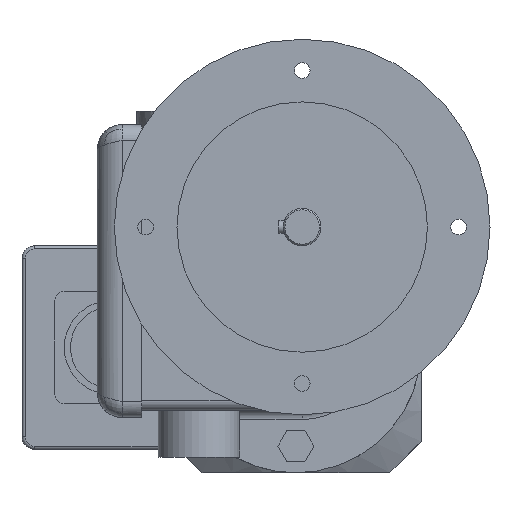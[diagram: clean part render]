
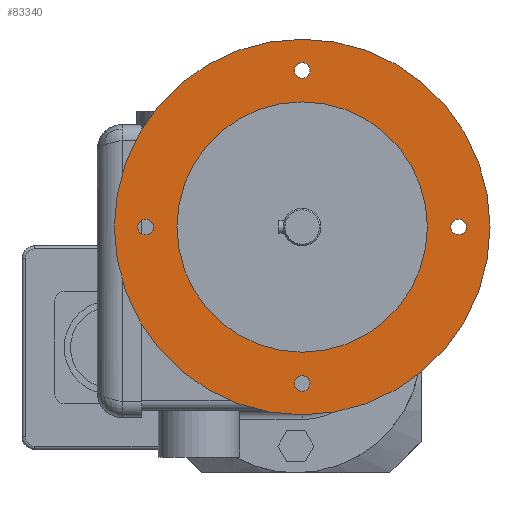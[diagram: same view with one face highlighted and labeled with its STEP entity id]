
A CAD part, left-side view. The second image highlights one B-rep face of the part: STEP entity #83340.
In plain terms, the highlighted planar face has unit normal (-1, 0, 0) as drawn and (0, 0, 1) by its records, which use the part's own axes.
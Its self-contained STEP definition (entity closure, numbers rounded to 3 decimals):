
#82260=CARTESIAN_POINT('',(-34.958,-296.478,185.));
#82270=VERTEX_POINT('',#82260);
#82350=CARTESIAN_POINT('',(-154.958,-296.478,185.));
#82360=VERTEX_POINT('',#82350);
#82390=CARTESIAN_POINT('',(-94.958,-296.478,185.));
#82400=DIRECTION('',(0.,0.,1.));
#82410=DIRECTION('',(1.,0.,0.));
#82420=AXIS2_PLACEMENT_3D('',#82390,#82400,#82410);
#82430=CIRCLE('',#82420,60.);
#82440=EDGE_CURVE('',#82360,#82270,#82430,.T.);
#82490=CARTESIAN_POINT('',(-91.592,-279.62,185.));
#82500=DIRECTION('',(0.,0.,1.));
#82510=DIRECTION('',(1.,0.,0.));
#82520=AXIS2_PLACEMENT_3D('',#82490,#82500,#82510);
#82530=PLANE('',#82520);
#82540=EDGE_CURVE('',#82270,#82360,#82430,.T.);
#82550=ORIENTED_EDGE('',*,*,#82540,.T.);
#82560=ORIENTED_EDGE('',*,*,#82440,.T.);
#82570=EDGE_LOOP('',(#82560,#82550));
#82580=FACE_OUTER_BOUND('',#82570,.T.);
#82590=CARTESIAN_POINT('',(-94.958,-296.478,185.));
#82600=DIRECTION('',(0.,0.,1.));
#82610=DIRECTION('',(1.,0.,0.));
#82620=AXIS2_PLACEMENT_3D('',#82590,#82600,#82610);
#82630=CIRCLE('',#82620,40.);
#82640=CARTESIAN_POINT('',(-54.958,-296.478,185.));
#82650=VERTEX_POINT('',#82640);
#82660=CARTESIAN_POINT('',(-134.958,-296.478,185.));
#82670=VERTEX_POINT('',#82660);
#82680=EDGE_CURVE('',#82650,#82670,#82630,.T.);
#82690=ORIENTED_EDGE('',*,*,#82680,.F.);
#82700=EDGE_CURVE('',#82670,#82650,#82630,.T.);
#82710=ORIENTED_EDGE('',*,*,#82700,.F.);
#82720=EDGE_LOOP('',(#82710,#82690));
#82730=FACE_BOUND('',#82720,.T.);
#82740=CARTESIAN_POINT('',(-44.958,-296.478,185.));
#82750=DIRECTION('',(0.,0.,1.));
#82760=DIRECTION('',(-1.,0.,0.));
#82770=AXIS2_PLACEMENT_3D('',#82740,#82750,#82760);
#82780=CIRCLE('',#82770,2.5);
#82790=CARTESIAN_POINT('',(-47.458,-296.478,185.));
#82800=VERTEX_POINT('',#82790);
#82810=CARTESIAN_POINT('',(-42.458,-296.478,185.));
#82820=VERTEX_POINT('',#82810);
#82830=EDGE_CURVE('',#82800,#82820,#82780,.T.);
#82840=ORIENTED_EDGE('',*,*,#82830,.F.);
#82850=EDGE_CURVE('',#82820,#82800,#82780,.T.);
#82860=ORIENTED_EDGE('',*,*,#82850,.F.);
#82870=EDGE_LOOP('',(#82860,#82840));
#82880=FACE_BOUND('',#82870,.T.);
#82890=CARTESIAN_POINT('',(-94.958,-346.478,185.));
#82900=DIRECTION('',(0.,0.,1.));
#82910=DIRECTION('',(0.,1.,0.));
#82920=AXIS2_PLACEMENT_3D('',#82890,#82900,#82910);
#82930=CIRCLE('',#82920,2.5);
#82940=CARTESIAN_POINT('',(-94.958,-343.978,185.));
#82950=VERTEX_POINT('',#82940);
#82960=CARTESIAN_POINT('',(-94.958,-348.978,185.));
#82970=VERTEX_POINT('',#82960);
#82980=EDGE_CURVE('',#82950,#82970,#82930,.T.);
#82990=ORIENTED_EDGE('',*,*,#82980,.F.);
#83000=EDGE_CURVE('',#82970,#82950,#82930,.T.);
#83010=ORIENTED_EDGE('',*,*,#83000,.F.);
#83020=EDGE_LOOP('',(#83010,#82990));
#83030=FACE_BOUND('',#83020,.T.);
#83040=CARTESIAN_POINT('',(-144.958,-296.478,185.));
#83050=DIRECTION('',(0.,0.,1.));
#83060=DIRECTION('',(1.,0.,0.));
#83070=AXIS2_PLACEMENT_3D('',#83040,#83050,#83060);
#83080=CIRCLE('',#83070,2.5);
#83090=CARTESIAN_POINT('',(-142.458,-296.478,185.));
#83100=VERTEX_POINT('',#83090);
#83110=CARTESIAN_POINT('',(-147.458,-296.478,185.));
#83120=VERTEX_POINT('',#83110);
#83130=EDGE_CURVE('',#83100,#83120,#83080,.T.);
#83140=ORIENTED_EDGE('',*,*,#83130,.F.);
#83150=EDGE_CURVE('',#83120,#83100,#83080,.T.);
#83160=ORIENTED_EDGE('',*,*,#83150,.F.);
#83170=EDGE_LOOP('',(#83160,#83140));
#83180=FACE_BOUND('',#83170,.T.);
#83190=CARTESIAN_POINT('',(-94.958,-246.478,185.));
#83200=DIRECTION('',(0.,0.,1.));
#83210=DIRECTION('',(0.,-1.,0.));
#83220=AXIS2_PLACEMENT_3D('',#83190,#83200,#83210);
#83230=CIRCLE('',#83220,2.5);
#83240=CARTESIAN_POINT('',(-94.958,-248.978,185.));
#83250=VERTEX_POINT('',#83240);
#83260=CARTESIAN_POINT('',(-94.958,-243.978,185.));
#83270=VERTEX_POINT('',#83260);
#83280=EDGE_CURVE('',#83250,#83270,#83230,.T.);
#83290=ORIENTED_EDGE('',*,*,#83280,.F.);
#83300=EDGE_CURVE('',#83270,#83250,#83230,.T.);
#83310=ORIENTED_EDGE('',*,*,#83300,.F.);
#83320=EDGE_LOOP('',(#83310,#83290));
#83330=FACE_BOUND('',#83320,.T.);
#83340=ADVANCED_FACE('',(#82580,#82730,#82880,#83030,#83180,#83330),
#82530,.T.);
